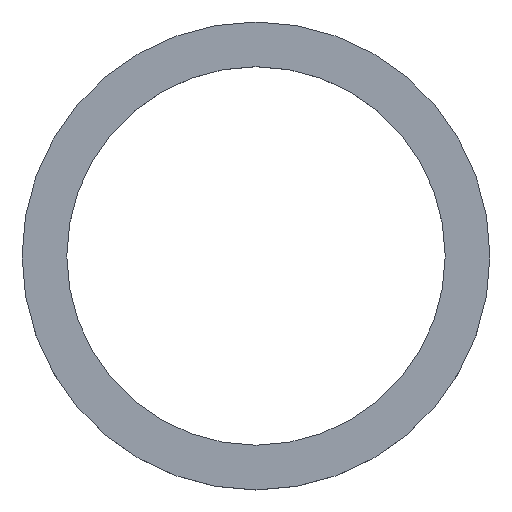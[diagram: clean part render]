
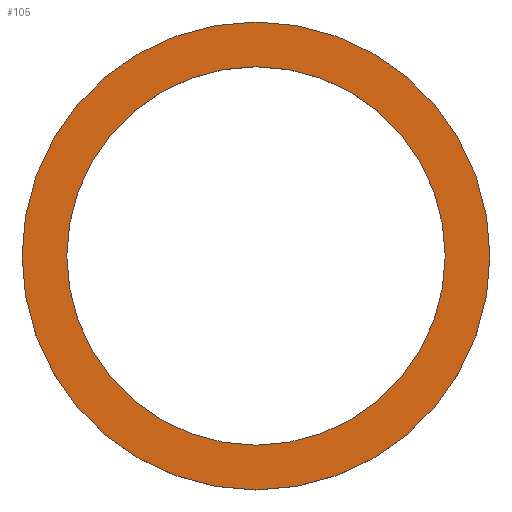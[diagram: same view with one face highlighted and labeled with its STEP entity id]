
A CAD part, top view. The second image highlights one B-rep face of the part: STEP entity #105.
In plain terms, the highlighted planar face has unit normal (0, 0, 1).
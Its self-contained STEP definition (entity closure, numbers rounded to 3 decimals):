
#21 = EDGE_CURVE('',#22,#22,#24,.T.);
#22 = VERTEX_POINT('',#23);
#23 = CARTESIAN_POINT('',(68.,0.,123.));
#24 = SURFACE_CURVE('',#25,(#30,#42),.PCURVE_S1.);
#25 = CIRCLE('',#26,68.);
#26 = AXIS2_PLACEMENT_3D('',#27,#28,#29);
#27 = CARTESIAN_POINT('',(0.,0.,123.));
#28 = DIRECTION('',(0.,0.,1.));
#29 = DIRECTION('',(1.,0.,-0.));
#30 = PCURVE('',#31,#36);
#31 = CYLINDRICAL_SURFACE('',#32,68.);
#32 = AXIS2_PLACEMENT_3D('',#33,#34,#35);
#33 = CARTESIAN_POINT('',(0.,0.,109.));
#34 = DIRECTION('',(0.,0.,1.));
#35 = DIRECTION('',(1.,0.,-0.));
#36 = DEFINITIONAL_REPRESENTATION('',(#37),#41);
#37 = LINE('',#38,#39);
#38 = CARTESIAN_POINT('',(0.,14.));
#39 = VECTOR('',#40,1.);
#40 = DIRECTION('',(1.,0.));
#41 = ( GEOMETRIC_REPRESENTATION_CONTEXT(2) 
PARAMETRIC_REPRESENTATION_CONTEXT() REPRESENTATION_CONTEXT('2D SPACE',''
  ) );
#42 = PCURVE('',#43,#48);
#43 = PLANE('',#44);
#44 = AXIS2_PLACEMENT_3D('',#45,#46,#47);
#45 = CARTESIAN_POINT('',(0.,0.,123.));
#46 = DIRECTION('',(0.,0.,1.));
#47 = DIRECTION('',(1.,0.,-0.));
#48 = DEFINITIONAL_REPRESENTATION('',(#49),#53);
#49 = CIRCLE('',#50,68.);
#50 = AXIS2_PLACEMENT_2D('',#51,#52);
#51 = CARTESIAN_POINT('',(0.,0.));
#52 = DIRECTION('',(1.,0.));
#53 = ( GEOMETRIC_REPRESENTATION_CONTEXT(2) 
PARAMETRIC_REPRESENTATION_CONTEXT() REPRESENTATION_CONTEXT('2D SPACE',''
  ) );
#105 = ADVANCED_FACE('',(#106,#109),#43,.T.);
#106 = FACE_BOUND('',#107,.T.);
#107 = EDGE_LOOP('',(#108));
#108 = ORIENTED_EDGE('',*,*,#21,.T.);
#109 = FACE_BOUND('',#110,.T.);
#110 = EDGE_LOOP('',(#111));
#111 = ORIENTED_EDGE('',*,*,#112,.F.);
#112 = EDGE_CURVE('',#113,#113,#115,.T.);
#113 = VERTEX_POINT('',#114);
#114 = CARTESIAN_POINT('',(55.,0.,123.));
#115 = SURFACE_CURVE('',#116,(#121,#128),.PCURVE_S1.);
#116 = CIRCLE('',#117,55.);
#117 = AXIS2_PLACEMENT_3D('',#118,#119,#120);
#118 = CARTESIAN_POINT('',(0.,0.,123.));
#119 = DIRECTION('',(0.,0.,1.));
#120 = DIRECTION('',(1.,0.,-0.));
#121 = PCURVE('',#43,#122);
#122 = DEFINITIONAL_REPRESENTATION('',(#123),#127);
#123 = CIRCLE('',#124,55.);
#124 = AXIS2_PLACEMENT_2D('',#125,#126);
#125 = CARTESIAN_POINT('',(0.,0.));
#126 = DIRECTION('',(1.,0.));
#127 = ( GEOMETRIC_REPRESENTATION_CONTEXT(2) 
PARAMETRIC_REPRESENTATION_CONTEXT() REPRESENTATION_CONTEXT('2D SPACE',''
  ) );
#128 = PCURVE('',#129,#134);
#129 = CYLINDRICAL_SURFACE('',#130,55.);
#130 = AXIS2_PLACEMENT_3D('',#131,#132,#133);
#131 = CARTESIAN_POINT('',(0.,0.,108.));
#132 = DIRECTION('',(0.,0.,1.));
#133 = DIRECTION('',(1.,0.,-0.));
#134 = DEFINITIONAL_REPRESENTATION('',(#135),#139);
#135 = LINE('',#136,#137);
#136 = CARTESIAN_POINT('',(0.,15.));
#137 = VECTOR('',#138,1.);
#138 = DIRECTION('',(1.,0.));
#139 = ( GEOMETRIC_REPRESENTATION_CONTEXT(2) 
PARAMETRIC_REPRESENTATION_CONTEXT() REPRESENTATION_CONTEXT('2D SPACE',''
  ) );
